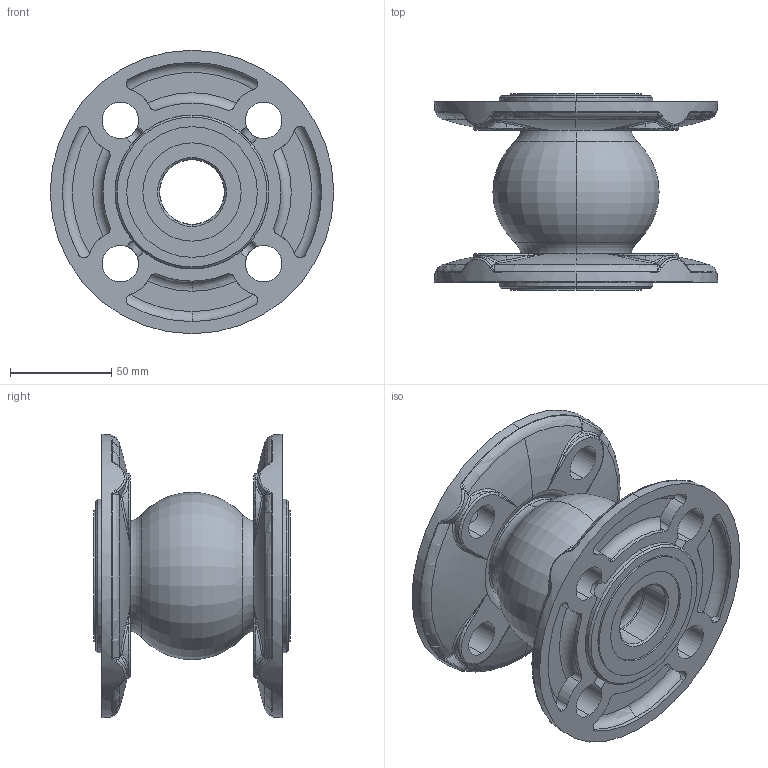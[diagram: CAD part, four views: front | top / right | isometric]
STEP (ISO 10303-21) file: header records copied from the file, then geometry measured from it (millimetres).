
FILE_DESCRIPTION (( 'STEP AP214' ), '1' );
FILE_NAME ('DN32单球橡胶软接、.STEP', '2025-12-26T01:05:46', ( '' ), ( '' ), 'SwSTEP 2.0', 'SolidWorks 2024', '' );
FILE_SCHEMA (( 'AUTOMOTIVE_DESIGN' ));
Length unit declared in the file: millimetre
Products named in the file (3): DN32单球橡胶软接、; DN32新款球铁法兰; DN32 单球橡胶
Assembly tree (3 placements, depth 2):
  DN32单球橡胶软接、
    DN32新款球铁法兰  x2
    DN32 单球橡胶
Bounding box: 140 x 97 x 140 mm (x, y, z)
Volume: 397205 mm3; surface area: 127266.9 mm2
Topology: 3 solids, 3 shells, 436 faces, 1112 edges, 688 vertices
Faces by surface type: cylinder 176, bspline 128, torus 92, plane 28, cone 12
Entity records: 11884 total; most frequent: CARTESIAN_POINT 5624, ORIENTED_EDGE 1232, DIRECTION 1106, EDGE_CURVE 616, AXIS2_PLACEMENT_3D 502, VERTEX_POINT 378, CIRCLE 312, EDGE_LOOP 266
